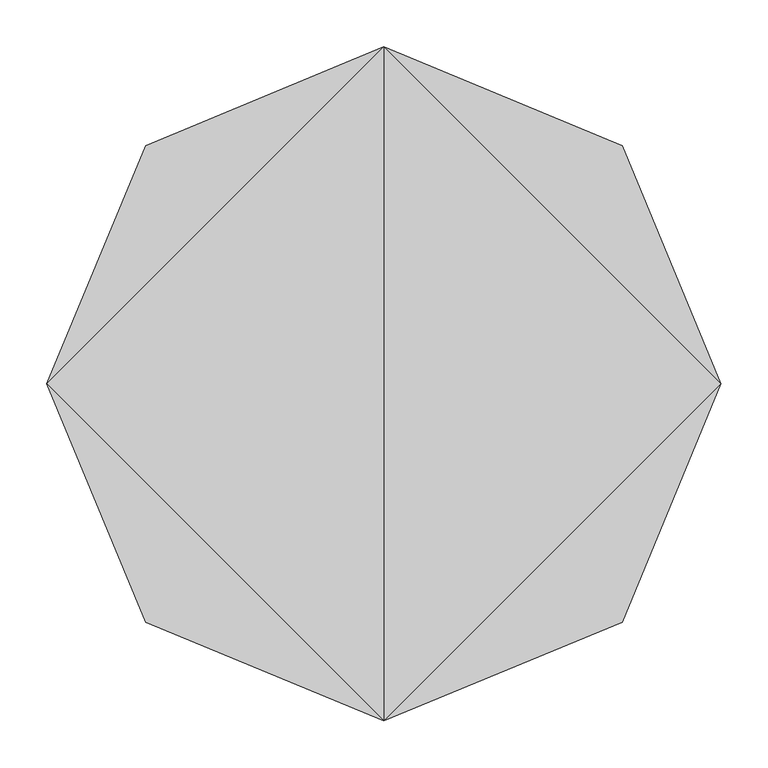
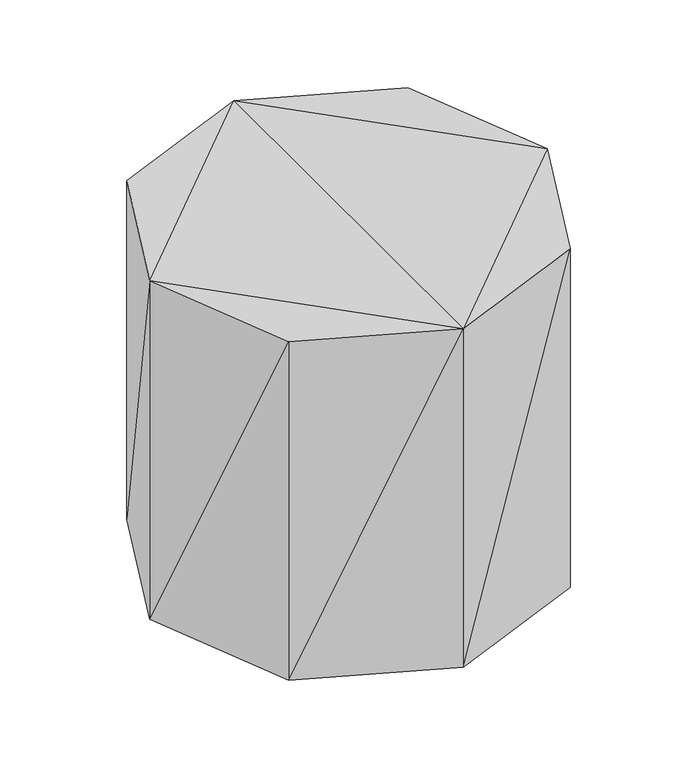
"""IFC4 building model written with IfcOpenShell, lengths in millimetres: geographic element geometry, Enscape AssetDefinition - Bush 015 English Laurel : Enscape AssetDefinition - Bush 015 English Laurel."""

import ifcopenshell
import ifcopenshell.guid

model = None  # the IFC model being written
_history = None  # IfcOwnerHistory: only IFC2X3 demands one
_inside = {}  # id of a spatial element -> (the spatial element, [elements in it])
_under = {}  # id of a project, library or spatial element -> (it, [spatial elements below it])
_declared = {}  # id of a project -> (the project, [libraries it declares])
_typed = {}  # id of a type object -> (the type object, [elements of that type])
_made_of = {}  # id of a material, layer set ... -> (it, [elements and type objects made of it])


def new_model(schema):
    """Start an empty IFC model of exactly this schema.

    Asked for "IFC4X3", IfcOpenShell would pick the latest addendum, in which some entities
    have other attributes; the version numbers below select the first issue.
    IFC2X3 requires an IfcOwnerHistory on every rooted entity: one is made here for all.
    """
    global model, _history
    if schema == "IFC4X3":
        model = ifcopenshell.file(schema_version=(4, 3, 0, 0))
    else:
        model = ifcopenshell.file(schema=schema)
    _inside.clear()
    _under.clear()
    _declared.clear()
    _typed.clear()
    _made_of.clear()
    _history = None
    if model.schema == "IFC2X3":
        org = make("IfcOrganization", Name="unknown")
        user = make(
            "IfcPersonAndOrganization",
            ThePerson=make("IfcPerson", FamilyName="unknown"),
            TheOrganization=org,
        )
        app = make(
            "IfcApplication",
            ApplicationDeveloper=org,
            Version="unknown",
            ApplicationFullName="unknown",
            ApplicationIdentifier="unknown",
        )
        _history = make(
            "IfcOwnerHistory",
            OwningUser=user,
            OwningApplication=app,
            ChangeAction="ADDED",
            CreationDate=0,
        )
    return model


def make(cls, **values):
    """One entity of the class cls with the attributes given. An attribute that is None is left unset."""
    return model.create_entity(
        cls, **{name: value for name, value in values.items() if value is not None}
    )


def rooted(cls, **values):
    """An entity with a GlobalId (a new one), such as an element, a storey or a relation."""
    return make(cls, GlobalId=ifcopenshell.guid.new(), OwnerHistory=_history, **values)


def si_unit(unit_type, name, prefix=None):
    """IfcSIUnit, for example si_unit("LENGTHUNIT", "METRE", prefix="MILLI")."""
    return make("IfcSIUnit", UnitType=unit_type, Prefix=prefix, Name=name)


def assignment(units):
    """IfcUnitAssignment: the units of a project."""
    return None if units is None else make("IfcUnitAssignment", Units=units)


def point(xyz):
    """IfcCartesianPoint."""
    return None if xyz is None else make("IfcCartesianPoint", Coordinates=xyz)


def direction(xyz):
    """IfcDirection."""
    return None if xyz is None else make("IfcDirection", DirectionRatios=xyz)


def frame(location, z_axis=None, x_axis=None):
    """IfcAxis2Placement3D, a coordinate frame: its origin and axes. An axis left out is left unset."""
    return make(
        "IfcAxis2Placement3D",
        Location=point(location),
        Axis=direction(z_axis),
        RefDirection=direction(x_axis),
    )


def origin():
    """The frame at (0, 0, 0) with its axes left unset."""
    return frame((0.0, 0.0, 0.0))


def place(relative_to, where):
    """IfcLocalPlacement: puts the frame where relative to a parent placement (None: the world)."""
    return make(
        "IfcLocalPlacement", PlacementRelTo=relative_to, RelativePlacement=where
    )


def context(
    kind, dimensions, precision=None, world=None, true_north=None, identifier=None
):
    """IfcGeometricRepresentationContext, for example the 3D "Model" context."""
    return make(
        "IfcGeometricRepresentationContext",
        ContextIdentifier=identifier,
        ContextType=kind,
        CoordinateSpaceDimension=dimensions,
        Precision=precision,
        WorldCoordinateSystem=world,
        TrueNorth=true_north,
    )


def project(units=None, contexts=None):
    """IfcProject with its units and contexts."""
    return rooted(
        "IfcProject",
        Name="project",
        RepresentationContexts=contexts,
        UnitsInContext=assignment(units),
    )


def spatial(cls, under=None, at=None, **own):
    """A site, building, storey or space (cls), placed at a placement, below another one or the project."""
    s = rooted(cls, ObjectPlacement=at, **own)
    if under is not None:
        _under.setdefault(under.id(), (under, []))[1].append(s)
    return s


def faces_of(points, faces, orient=None, outer=None):
    """IfcFace entities. A face is a list of loops; a loop is a list of indices into points, from 0.

    orient and outer hold one flag for each loop. By default every Orientation is true, the
    first loop of a face is its IfcFaceOuterBound and the others are IfcFaceBound.
    """
    made = []
    for i, loops in enumerate(faces):
        bounds = []
        for j, loop in enumerate(loops):
            is_outer = j == 0 if outer is None else outer[i][j]
            bounds.append(
                make(
                    "IfcFaceOuterBound" if is_outer else "IfcFaceBound",
                    Bound=make("IfcPolyLoop", Polygon=[points[k] for k in loop]),
                    Orientation=True if orient is None else orient[i][j],
                )
            )
        made.append(make("IfcFace", Bounds=bounds))
    return made


def faceted_brep(points, faces, orient=None, outer=None, voids=None):
    """IfcFacetedBrep: a solid bounded by flat faces; with voids (closed shells), ...WithVoids."""
    shared = [point(p) for p in points]
    hull = make("IfcClosedShell", CfsFaces=faces_of(shared, faces, orient, outer))
    if voids is None:
        return make("IfcFacetedBrep", Outer=hull)
    return make(
        "IfcFacetedBrepWithVoids",
        Outer=hull,
        Voids=[
            make(cls, CfsFaces=faces_of(shared, fs, o, b)) for cls, fs, o, b in voids
        ],
    )


def shape(context_of_items, identifier, shape_type, items):
    """IfcShapeRepresentation: the items that make up one representation, for example the "Body"."""
    return make(
        "IfcShapeRepresentation",
        ContextOfItems=context_of_items,
        RepresentationIdentifier=identifier,
        RepresentationType=shape_type,
        Items=items,
    )


def source(mapping_origin, context_of_items, identifier, shape_type, items):
    """IfcRepresentationMap: a shape defined once, which mapped items show again and again."""
    return make(
        "IfcRepresentationMap",
        MappingOrigin=mapping_origin,
        MappedRepresentation=shape(context_of_items, identifier, shape_type, items),
    )


def transform(
    local_origin,
    x_axis=None,
    y_axis=None,
    z_axis=None,
    scale=None,
    scale2=None,
    scale3=None,
    uniform=True,
):
    """IfcCartesianTransformationOperator3D, or its non-uniform kind. x_axis, y_axis, z_axis: its Axis1, 2, 3."""
    if uniform:
        return make(
            "IfcCartesianTransformationOperator3D",
            Axis1=direction(x_axis),
            Axis2=direction(y_axis),
            LocalOrigin=point(local_origin),
            Scale=scale,
            Axis3=direction(z_axis),
        )
    return make(
        "IfcCartesianTransformationOperator3DnonUniform",
        Axis1=direction(x_axis),
        Axis2=direction(y_axis),
        LocalOrigin=point(local_origin),
        Scale=scale,
        Axis3=direction(z_axis),
        Scale2=scale2,
        Scale3=scale3,
    )


def mapped(mapping_source, mapping_target):
    """IfcMappedItem: shows the shape of a source again, moved by a transform."""
    return make(
        "IfcMappedItem", MappingSource=mapping_source, MappingTarget=mapping_target
    )


def made_of(thing, what):
    """Note that an element or type object is made of a material, layer set ...; save() writes the relation."""
    if what is not None:
        _made_of.setdefault(what.id(), (what, []))[1].append(thing)
    return thing


def element(
    cls,
    number,
    at=None,
    inside=None,
    cuts=None,
    type_object=None,
    material=None,
    context=None,
    identifier="Body",
    shape_type=None,
    held_by="IfcProductDefinitionShape",
    body=None,
    shapes=None,
    **own,
):
    """One element of the class cls, such as IfcWall. Its Tag is "e" and its number.

    at: its placement. inside: the storey or other place that contains it. cuts: it is an
    opening in that element (IfcRelVoidsElement). A single representation is given by context,
    identifier, shape_type and body (its items); several are given by shapes. held_by: the class
    of the entity that holds the representations. save() writes the other relations.
    """
    e = rooted(cls, Tag="e%d" % number, ObjectPlacement=at, **own)
    if body is not None:
        shapes = [shape(context, identifier, shape_type, body)]
    if shapes is not None:
        e.Representation = make(held_by, Representations=shapes)
    if inside is not None:
        _inside.setdefault(inside.id(), (inside, []))[1].append(e)
    if cuts is not None:
        rooted(
            "IfcRelVoidsElement", RelatingBuildingElement=cuts, RelatedOpeningElement=e
        )
    if type_object is not None:
        _typed.setdefault(type_object.id(), (type_object, []))[1].append(e)
    return made_of(e, material)


def aggregate(whole, parts):
    """IfcRelAggregates: a whole, such as a stair, and the parts it consists of."""
    return rooted("IfcRelAggregates", RelatingObject=whole, RelatedObjects=parts)


def save(model, path):
    """Write the relations noted so far, then the file.

    IfcRelAggregates (storeys below a building ...), IfcRelContainedInSpatialStructure (elements
    in a storey), IfcRelDefinesByType, IfcRelAssociatesMaterial and IfcRelDeclares: one each for
    every whole, place, type object, material and project.
    """
    for whole, parts in _under.values():
        aggregate(whole, parts)
    for where, things in _inside.values():
        rooted(
            "IfcRelContainedInSpatialStructure",
            RelatedElements=things,
            RelatingStructure=where,
        )
    for kind, things in _typed.values():
        rooted("IfcRelDefinesByType", RelatedObjects=things, RelatingType=kind)
    for what, things in _made_of.values():
        rooted("IfcRelAssociatesMaterial", RelatedObjects=things, RelatingMaterial=what)
    for by, libraries in _declared.values():
        rooted("IfcRelDeclares", RelatingContext=by, RelatedDefinitions=libraries)
    model.write(path)


def geographic_element_3335acbb(model_context):
    return source(origin(), model_context, "Body", "Brep", [
        faceted_brep([(-358.5844934, 0.0, 0.0), (0.0, -358.5844934, 0.0), (-253.557086, -253.557086, 0.0), (358.5844934, 0.0, 0.0), (253.557086, -253.557086, 0.0), (0.0, -358.5844934, 645.8470821), (253.557086, -253.557086, 645.8470821), (-253.557086, -253.557086, 645.8470821), (-358.5844934, 0.0, 645.8470821), (0.0, 358.5844934, 645.8470821), (358.5844934, 0.0, 645.8470821), (253.557086, 253.557086, 645.8470821), (253.557086, 253.557086, 0.0), (0.0, 358.5844934, 0.0), (-253.557086, 253.557086, 645.8470821), (-253.557086, 253.557086, 0.0)], [[[0, 1, 2]], [[3, 1, 0]], [[3, 4, 1]], [[5, 2, 1]], [[6, 1, 4]], [[1, 6, 5]], [[7, 0, 2]], [[2, 5, 7]], [[5, 8, 7]], [[5, 9, 8]], [[5, 10, 9]], [[5, 6, 10]], [[4, 10, 6]], [[10, 4, 3]], [[3, 11, 10]], [[9, 10, 11]], [[9, 12, 13]], [[12, 9, 11]], [[13, 14, 9]], [[8, 9, 14]], [[11, 3, 12]], [[3, 13, 12]], [[13, 0, 15]], [[3, 0, 13]], [[14, 13, 15]], [[15, 8, 14]], [[8, 15, 0]], [[0, 7, 8]]]),
    ])


if __name__ == "__main__":
    model = new_model("IFC4")
    model_context = context("Model", 3, world=origin())
    ifc_project = project(units=[si_unit("LENGTHUNIT", "METRE", prefix="MILLI")], contexts=[model_context])
    site = spatial("IfcSite", under=ifc_project)
    building = spatial("IfcBuilding", under=site)
    placement = place(None, origin())
    geographic_element_shape = geographic_element_3335acbb(model_context)
    element("IfcGeographicElement", 1, ObjectType="Enscape AssetDefinition - Bush 015 English Laurel : Enscape AssetDefinition - Bush 015 English Laurel", at=placement, inside=building, context=model_context, shape_type="MappedRepresentation", body=[
        mapped(geographic_element_shape, transform((0.0, 0.0, 0.0), x_axis=(1.0, 0.0, 0.0), y_axis=(0.0, 1.0, 0.0), z_axis=(0.0, 0.0, 1.0))),
    ])
    save(model, "model.ifc")
